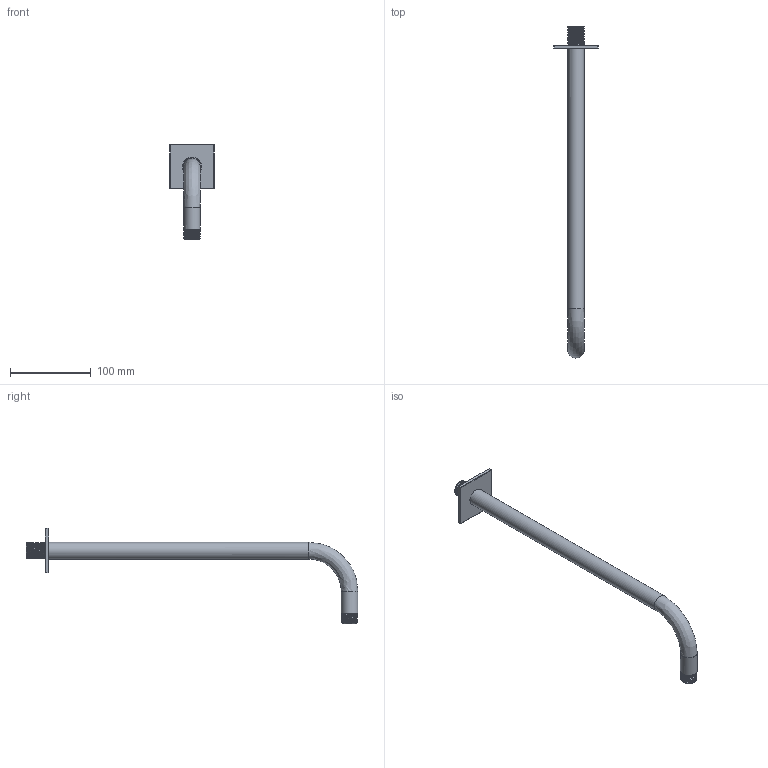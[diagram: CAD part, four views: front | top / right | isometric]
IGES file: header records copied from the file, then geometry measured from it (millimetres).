
Global section: file name: a2eae2df-c102-49bf-ac74-da99e740a3bb; native system: unknown; preprocessor: unknown; author: unknown; organization: unknown; date: 20200310.101908; units: millimetre
Bounding box: 55 x 410.35 x 117.5 mm (x, y, z)
Volume: 57330.2 mm3; surface area: 64054.7 mm2
Topology: 2 solids, 2 shells, 49 faces, 113 edges, 74 vertices
Faces by surface type: bspline 49
